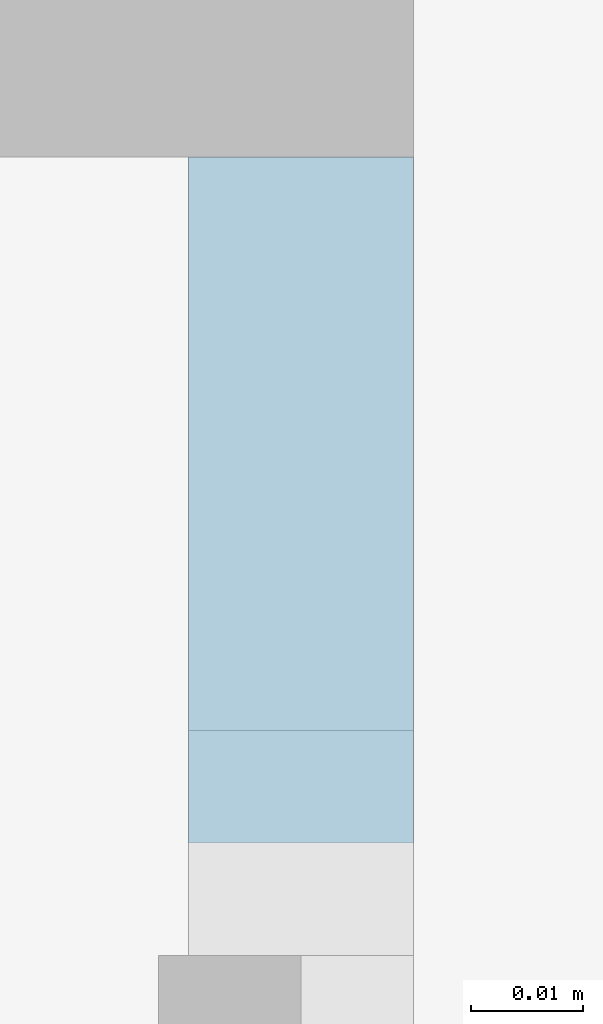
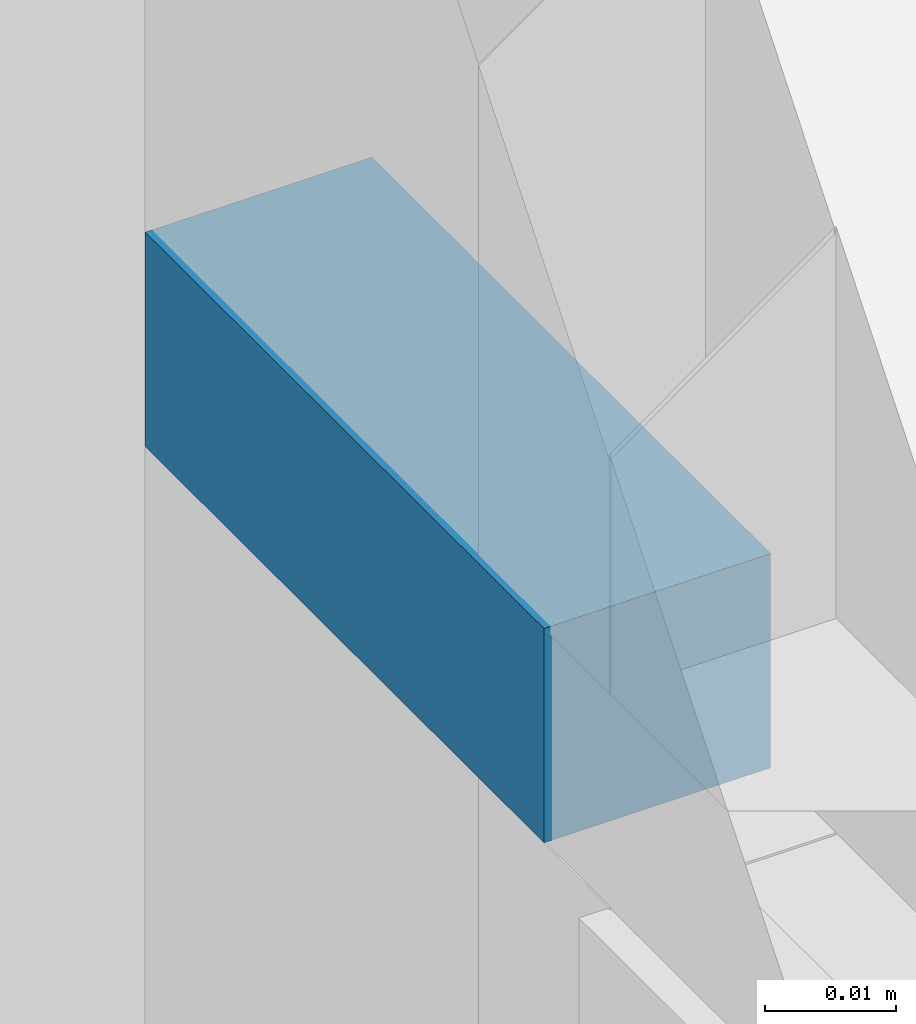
# One storey, part 14 of 66: 1 member, 1 element without a shape of its own.
"""IFC2X3 building model written with IfcOpenShell, lengths in millimetres."""

from ifc_helpers import new_model, entity, si_unit, converted_unit, derived_unit, direction, frame, origin, origin_2d_with_axis, place, context, subcontext, project, spatial, rectangle, extrude, source, transform, mapped, material, type_object, type_shapes, element, aggregate, save


model = new_model("IFC2X3")

# Units and contexts
model_context = context("Model", 3, precision=0.01, world=origin(), true_north=direction((6.12303176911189e-17, 1.0)))
body_context = subcontext(model_context, "Body", "Model", "MODEL_VIEW")
ifc_project = project(units=[si_unit("LENGTHUNIT", "METRE", prefix="MILLI"), si_unit("AREAUNIT", "SQUARE_METRE"), si_unit("VOLUMEUNIT", "CUBIC_METRE"), converted_unit("PLANEANGLEUNIT", "DEGREE", entity("IfcRatioMeasure", 0.0174532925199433), si_unit("PLANEANGLEUNIT", "RADIAN"), dimensions=[0, 0, 0, 0, 0, 0, 0]), si_unit("MASSUNIT", "GRAM", prefix="KILO"), derived_unit("MASSDENSITYUNIT", [(si_unit("MASSUNIT", "GRAM", prefix="KILO"), 1), (si_unit("LENGTHUNIT", "METRE"), -3)]), si_unit("TIMEUNIT", "SECOND"), si_unit("FREQUENCYUNIT", "HERTZ"), si_unit("THERMODYNAMICTEMPERATUREUNIT", "DEGREE_CELSIUS"), derived_unit("THERMALTRANSMITTANCEUNIT", [(si_unit("MASSUNIT", "GRAM", prefix="KILO"), 1), (si_unit("THERMODYNAMICTEMPERATUREUNIT", "KELVIN"), -1), (si_unit("TIMEUNIT", "SECOND"), -3)]), derived_unit("VOLUMETRICFLOWRATEUNIT", [(si_unit("LENGTHUNIT", "METRE"), 3), (si_unit("TIMEUNIT", "SECOND"), -1)]), si_unit("ELECTRICCURRENTUNIT", "AMPERE"), si_unit("ELECTRICVOLTAGEUNIT", "VOLT"), si_unit("POWERUNIT", "WATT"), si_unit("FORCEUNIT", "NEWTON", prefix="KILO"), si_unit("ILLUMINANCEUNIT", "LUX"), si_unit("LUMINOUSFLUXUNIT", "LUMEN"), si_unit("LUMINOUSINTENSITYUNIT", "CANDELA"), derived_unit("USERDEFINED", [(si_unit("MASSUNIT", "GRAM", prefix="KILO"), -1), (si_unit("LENGTHUNIT", "METRE"), -2), (si_unit("TIMEUNIT", "SECOND"), 3), (si_unit("LUMINOUSFLUXUNIT", "LUMEN"), 1)]), derived_unit("LINEARVELOCITYUNIT", [(si_unit("LENGTHUNIT", "METRE"), 1), (si_unit("TIMEUNIT", "SECOND"), -1)]), si_unit("PRESSUREUNIT", "PASCAL"), derived_unit("USERDEFINED", [(si_unit("LENGTHUNIT", "METRE"), -2), (si_unit("MASSUNIT", "GRAM", prefix="KILO"), 1), (si_unit("TIMEUNIT", "SECOND"), -2)])], contexts=[model_context])

# Site, building, storey
site_placement = place(None, frame((-151.875543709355, 2715.0, 0.0)))
site = spatial("IfcSite", under=ifc_project, at=site_placement, Name="Surface", CompositionType="ELEMENT")
building_placement = place(site_placement, origin())
building = spatial("IfcBuilding", under=site, at=building_placement, CompositionType="ELEMENT")
storey_placement = place(building_placement, frame((0.0, 0.0, 3350.0)))
storey = spatial("IfcBuildingStorey", under=building, at=storey_placement, Name="2 korrus", CompositionType="ELEMENT", Elevation=3350.00000000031)

# Curtain wall, member
curtain_wall_type = type_object("IfcCurtainWallType", Name="Curtain Wall:Klaassein KLS-05", PredefinedType="NOTDEFINED")
curtain_wall_placement = place(storey_placement, frame((0.0, 0.0, -3350.0)))
curtain_wall = element("IfcCurtainWall", 1, at=curtain_wall_placement, inside=storey, type_object=curtain_wall_type, Name="Curtain Wall:Klaassein KLS-05", ObjectType="Curtain Wall:Klaassein KLS-05")
ifc_material = material(Name="__Uks_hele tamm")
member_type = type_object("IfcMemberType", Name="20 x 20mm", PredefinedType="MEMBER")
shared_shape = source(origin(), body_context, "Body", "SweptSolid", [
    extrude(rectangle(XDim=20.0, YDim=20.0, at=origin_2d_with_axis()), frame((0.0, 0.0, -61.0), z_axis=(0.0, 0.0, 1.0), x_axis=(0.0, -1.0, 0.0)), (0.0, 0.0, 1.0), 61.0000000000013),
])
type_shapes(member_type, [shared_shape])
member_placement = place(storey_placement, frame((27053.2859998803, 8945.0, 2090.0), z_axis=(0.0, 1.0, 0.0), x_axis=(0.0, 0.0, 1.0)))
member = element("IfcMember", 2, at=member_placement, type_object=member_type, material=ifc_material, Name="Rectangular Mullion:20 x 20mm", ObjectType="20 x 20mm", context=body_context, shape_type="MappedRepresentation", body=[
    mapped(shared_shape, transform((0.0, 0.0, 0.0), scale=1.0)),
])
aggregate(curtain_wall, [member])

save(model, "model.ifc")
